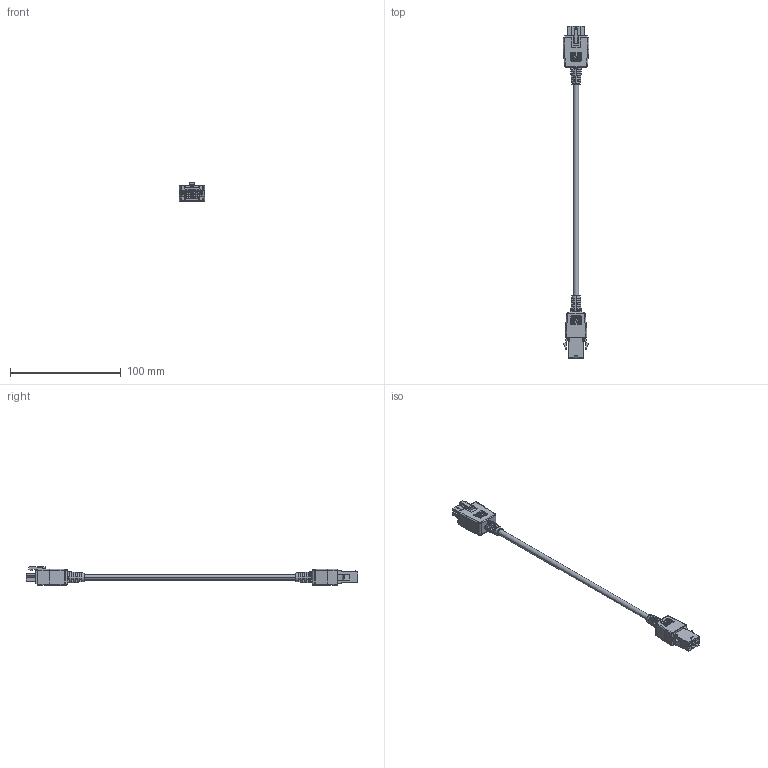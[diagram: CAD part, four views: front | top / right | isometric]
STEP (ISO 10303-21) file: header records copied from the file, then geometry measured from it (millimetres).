
FILE_DESCRIPTION (( 'STEP AP214' ), '1' );
FILE_NAME ('A124.00151 Motor cable SX 1.7 m.STEP', '2022-09-15T18:34:56', ( '' ), ( '' ), 'SwSTEP 2.0', 'SolidWorks 2016', '' );
FILE_SCHEMA (( 'AUTOMOTIVE_DESIGN' ));
Length unit declared in the file: millimetre
Products named in the file (1): A124.00151 Motor cable SX 1.7 m
Bounding box: 23.34 x 300 x 17 mm (x, y, z)
Volume: 22179.8 mm3; surface area: 13680.7 mm2
Topology: 1 solids, 1 shells, 881 faces, 2373 edges, 1497 vertices
Faces by surface type: plane 479, cylinder 212, bspline 181, torus 5, cone 4
Entity records: 37472 total; most frequent: CARTESIAN_POINT 15459, ORIENTED_EDGE 4594, DIRECTION 2979, EDGE_CURVE 2297, VERTEX_POINT 1497, VECTOR 1253, LINE 1253, EDGE_LOOP 960
